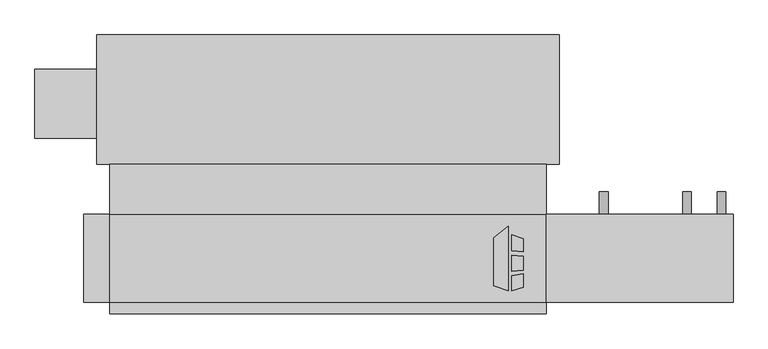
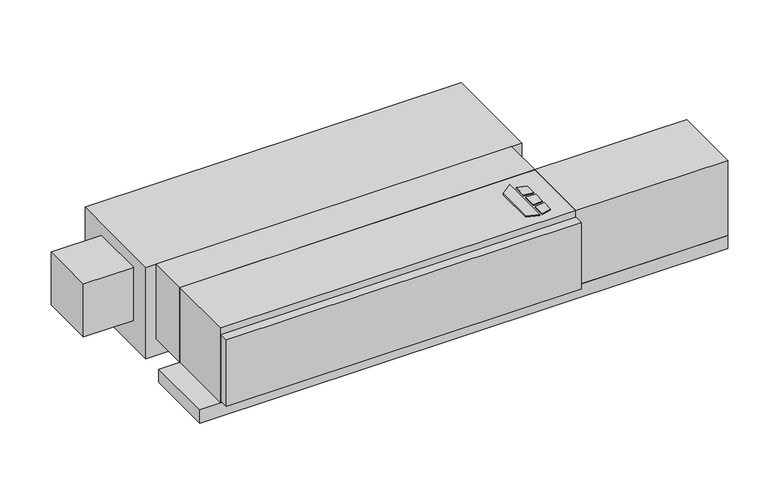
"""IFC4 building model written with IfcOpenShell, lengths in millimetres: proxy geometry, Concealed_Horizontal_Fan_Coil_Unit_With_Plenum_-_CPF_-_IEC_-_2-Pipe_RH : Size 08 - 115v/60Hz/1Ph - 4/1 Coil."""

from ifc_helpers import new_model, si_unit, point, frame, frame_2d, origin, origin_with_axes, place, context, project, spatial, polyline, circle_curve, trimmed, segment, composite_curve, outline, extrude, source, transform, mapped, element, save


def mechanical_equipment_60b8502e(model_context):
    return source(origin(), model_context, "Body", "SweptSolid", [
        extrude(outline(polyline([(518.8019761, -193.0453476), (551.3602728, -167.6080184), (551.3602728, -309.5625), (518.8019761, -299.3429201), (518.8019761, -193.0453476)])), origin_with_axes(), (0.0, 0.0, 1.0), 3.175),
        extrude(outline(polyline([(558.1186058, -220.917352), (558.1186058, -186.4374379), (584.2, -194.6240115), (584.2, -224.1197446), (558.1186058, -220.917352)])), origin_with_axes(), (0.0, 0.0, 1.0), 3.175),
        extrude(outline(polyline([(584.2, -302.5740115), (558.1186058, -309.5625), (558.1186058, -276.3411996), (584.2, -272.7993564), (584.2, -302.5740115)])), origin_with_axes(), (0.0, 0.0, 1.0), 3.175),
        extrude(outline(polyline([(584.2, -233.2013277), (584.2, -264.451483), (558.1186058, -267.192748), (558.1186058, -231.3350378), (584.2, -233.2013277)])), origin_with_axes(), (0.0, 0.0, 1.0), 3.175),
        extrude(outline(polyline([(-330.2, -30.1625), (635.0, -30.1625), (635.0, -141.2875), (-330.2, -141.2875), (-330.2, -30.1625)])), frame((0.0, 0.0, -215.9), z_axis=(0.0, 0.0, 1.0), x_axis=(1.0, 0.0, 0.0)), (0.0, 0.0, 1.0), 215.9),
        extrude(outline(composite_curve([segment(trimmed(circle_curve(frame_2d((-158.75, 946.15)), 9.525), [point((-158.75, 955.675))], [point((-158.75, 936.625))], False, "CARTESIAN"), True, "CONTINUOUS"), segment(trimmed(circle_curve(frame_2d((-158.75, 946.15)), 9.525), [point((-158.75, 936.625))], [point((-158.75, 955.675))], False, "CARTESIAN"), True, "CONTINUOUS")], self_intersect=False)), frame((0.0, -141.2875, 0.0), z_axis=(0.0, 1.0, 0.0), x_axis=(0.0, 0.0, 1.0)), (0.0, 0.0, 1.0), 50.8),
        extrude(outline(composite_curve([segment(trimmed(circle_curve(frame_2d((-158.75, 762.0)), 9.525), [point((-158.75, 771.525))], [point((-158.75, 752.475))], False, "CARTESIAN"), True, "CONTINUOUS"), segment(trimmed(circle_curve(frame_2d((-158.75, 762.0)), 9.525), [point((-158.75, 752.475))], [point((-158.75, 771.525))], False, "CARTESIAN"), True, "CONTINUOUS")], self_intersect=False)), frame((0.0, -141.2875, 0.0), z_axis=(0.0, 1.0, 0.0), x_axis=(0.0, 0.0, 1.0)), (0.0, 0.0, 1.0), 50.8),
        extrude(outline(polyline([(1047.75, -141.2875), (1047.75, -334.9625), (635.0, -334.9625), (635.0, -141.2875), (1047.75, -141.2875)])), frame((0.0, 0.0, -215.9), z_axis=(0.0, 0.0, 1.0), x_axis=(1.0, 0.0, 0.0)), (0.0, 0.0, 1.0), 215.9),
        extrude(outline(composite_curve([segment(trimmed(circle_curve(frame_2d((-241.3, 1022.35)), 9.525), [point((-241.3, 1012.825))], [point((-241.3, 1031.875))], False, "CARTESIAN"), True, "CONTINUOUS"), segment(trimmed(circle_curve(frame_2d((-241.3, 1022.35)), 9.525), [point((-241.3, 1031.875))], [point((-241.3, 1012.825))], False, "CARTESIAN"), True, "CONTINUOUS")], self_intersect=False)), frame((0.0, -141.2875, 0.0), z_axis=(0.0, 1.0, 0.0), x_axis=(0.0, 0.0, 1.0)), (0.0, 0.0, 1.0), 50.8),
        extrude(outline(polyline([(635.0, -334.9625), (635.0, -360.3625), (-330.2, -360.3625), (-330.2, -334.9625), (635.0, -334.9625)])), frame((0.0, 0.0, -209.55), z_axis=(0.0, 0.0, 1.0), x_axis=(1.0, 0.0, 0.0)), (0.0, 0.0, 1.0), 190.5),
        extrude(outline(polyline([(635.0, -334.9625), (-330.2, -334.9625), (-330.2, -141.2875), (635.0, -141.2875), (635.0, -334.9625)])), frame((0.0, 0.0, -215.9), z_axis=(0.0, 0.0, 1.0), x_axis=(1.0, 0.0, 0.0)), (0.0, 0.0, 1.0), 215.9),
        extrude(outline(polyline([(1047.75, -141.2875), (1047.75, -334.9625), (-387.35, -334.9625), (-387.35, -141.2875), (1047.75, -141.2875)])), frame((0.0, 0.0, -254.0), z_axis=(0.0, 0.0, 1.0), x_axis=(1.0, 0.0, 0.0)), (0.0, 0.0, 1.0), 38.1),
        extrude(outline(polyline([(-495.3, 26.9875), (-495.3, 179.3875), (-358.775, 179.3875), (-358.775, 26.9875), (-495.3, 26.9875)])), frame((0.0, 0.0, -187.325), z_axis=(0.0, 0.0, 1.0), x_axis=(1.0, 0.0, 0.0)), (0.0, 0.0, 1.0), 152.4),
        extrude(outline(polyline([(-358.775, 255.5875), (663.575, 255.5875), (663.575, -30.1625), (-358.775, -30.1625), (-358.775, 255.5875)])), frame((0.0, 0.0, -263.525), z_axis=(0.0, 0.0, 1.0), x_axis=(1.0, 0.0, 0.0)), (0.0, 0.0, 1.0), 263.525),
    ])


if __name__ == "__main__":
    model = new_model("IFC4")
    model_context = context("Model", 3, world=origin())
    ifc_project = project(units=[si_unit("LENGTHUNIT", "METRE", prefix="MILLI")], contexts=[model_context])
    site = spatial("IfcSite", under=ifc_project)
    building = spatial("IfcBuilding", under=site)
    placement = place(None, origin())
    mechanical_equipment_shape = mechanical_equipment_60b8502e(model_context)
    element("IfcBuildingElementProxy", 1, Name="Concealed_Horizontal_Fan_Coil_Unit_With_Plenum_-_CPF_-_IEC_-_2-Pipe_RH : Size 08 - 115v/60Hz/1Ph - 4/1 Coil", ObjectType="Concealed_Horizontal_Fan_Coil_Unit_With_Plenum_-_CPF_-_IEC_-_2-Pipe_RH : Size 08 - 115v/60Hz/1Ph - 4/1 Coil", at=placement, inside=building, context=model_context, shape_type="MappedRepresentation", body=[
        mapped(mechanical_equipment_shape, transform((0.0, 0.0, 0.0), x_axis=(1.0, 0.0, 0.0), y_axis=(0.0, 1.0, 0.0), z_axis=(0.0, 0.0, 1.0))),
    ])
    save(model, "model.ifc")
